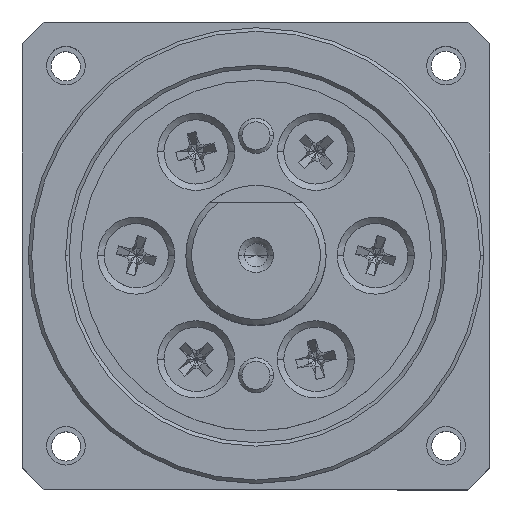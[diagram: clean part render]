
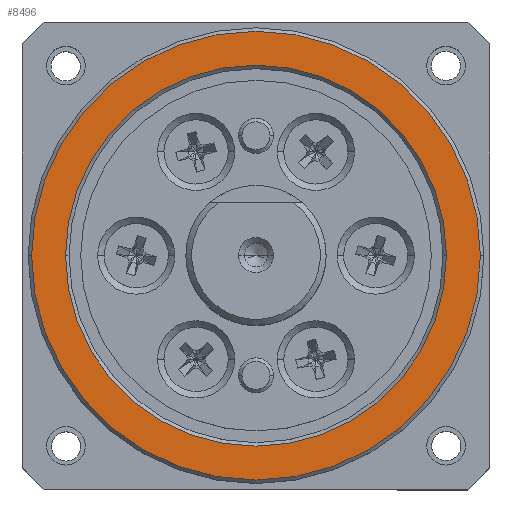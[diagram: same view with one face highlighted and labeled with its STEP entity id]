
A CAD part, top view. The second image highlights one B-rep face of the part: STEP entity #8496.
In plain terms, the highlighted planar face has unit normal (0, 0, 1).
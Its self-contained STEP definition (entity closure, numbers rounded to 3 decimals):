
#18 = VERTEX_POINT ( 'NONE', #3800 ) ;
#821 = ORIENTED_EDGE ( 'NONE', *, *, #6661, .T. ) ;
#1281 = DIRECTION ( 'NONE',  ( 0., 0., -1. ) ) ;
#1285 = EDGE_CURVE ( 'NONE', #18, #5532, #15474, .T. ) ;
#2493 = ORIENTED_EDGE ( 'NONE', *, *, #1285, .T. ) ;
#2629 = CARTESIAN_POINT ( 'NONE',  ( 0., 0., 29.5 ) ) ;
#2812 = EDGE_LOOP ( 'NONE', ( #11646, #2493 ) ) ;
#2938 = ORIENTED_EDGE ( 'NONE', *, *, #3924, .T. ) ;
#3013 = VERTEX_POINT ( 'NONE', #15829 ) ;
#3800 = CARTESIAN_POINT ( 'NONE',  ( 19.2, 0., 29.5 ) ) ;
#3924 = EDGE_CURVE ( 'NONE', #6596, #3013, #18025, .T. ) ;
#4068 = DIRECTION ( 'NONE',  ( 1., 0., 0. ) ) ;
#5405 = CARTESIAN_POINT ( 'NONE',  ( -19.2, 0., 29.5 ) ) ;
#5532 = VERTEX_POINT ( 'NONE', #5405 ) ;
#5812 = DIRECTION ( 'NONE',  ( 0., 0., 1. ) ) ;
#6596 = VERTEX_POINT ( 'NONE', #15317 ) ;
#6661 = EDGE_CURVE ( 'NONE', #3013, #6596, #12714, .T. ) ;
#7161 = CIRCLE ( 'NONE', #15668, 19.2 ) ;
#7529 = DIRECTION ( 'NONE',  ( 0., 0., 1. ) ) ;
#8434 = AXIS2_PLACEMENT_3D ( 'NONE', #14475, #5812, #15913 ) ;
#8496 = ADVANCED_FACE ( 'NONE', ( #10501, #18626 ), #10129, .T. ) ;
#9366 = AXIS2_PLACEMENT_3D ( 'NONE', #2629, #12695, #4068 ) ;
#9507 = EDGE_LOOP ( 'NONE', ( #821, #2938 ) ) ;
#9895 = CARTESIAN_POINT ( 'NONE',  ( 0., 0., 29.5 ) ) ;
#10129 = PLANE ( 'NONE',  #8434 ) ;
#10501 = FACE_OUTER_BOUND ( 'NONE', #2812, .T. ) ;
#11367 = DIRECTION ( 'NONE',  ( 1., 0., 0. ) ) ;
#11646 = ORIENTED_EDGE ( 'NONE', *, *, #13076, .T. ) ;
#12695 = DIRECTION ( 'NONE',  ( 0., 0., -1. ) ) ;
#12714 = CIRCLE ( 'NONE', #9366, 16.3 ) ;
#12891 = DIRECTION ( 'NONE',  ( 1., 0., 0. ) ) ;
#13076 = EDGE_CURVE ( 'NONE', #5532, #18, #7161, .T. ) ;
#14475 = CARTESIAN_POINT ( 'NONE',  ( 0., 0., 29.5 ) ) ;
#14623 = CARTESIAN_POINT ( 'NONE',  ( 0., 0., 29.5 ) ) ;
#15317 = CARTESIAN_POINT ( 'NONE',  ( -16.3, 0., 29.5 ) ) ;
#15474 = CIRCLE ( 'NONE', #16066, 19.2 ) ;
#15668 = AXIS2_PLACEMENT_3D ( 'NONE', #16156, #7529, #17620 ) ;
#15829 = CARTESIAN_POINT ( 'NONE',  ( 16.3, 0., 29.5 ) ) ;
#15872 = AXIS2_PLACEMENT_3D ( 'NONE', #9895, #1281, #11367 ) ;
#15913 = DIRECTION ( 'NONE',  ( 1., 0., 0. ) ) ;
#16066 = AXIS2_PLACEMENT_3D ( 'NONE', #14623, #17389, #12891 ) ;
#16156 = CARTESIAN_POINT ( 'NONE',  ( 0., 0., 29.5 ) ) ;
#17389 = DIRECTION ( 'NONE',  ( 0., 0., 1. ) ) ;
#17620 = DIRECTION ( 'NONE',  ( 1., 0., 0. ) ) ;
#18025 = CIRCLE ( 'NONE', #15872, 16.3 ) ;
#18626 = FACE_BOUND ( 'NONE', #9507, .T. ) ;
